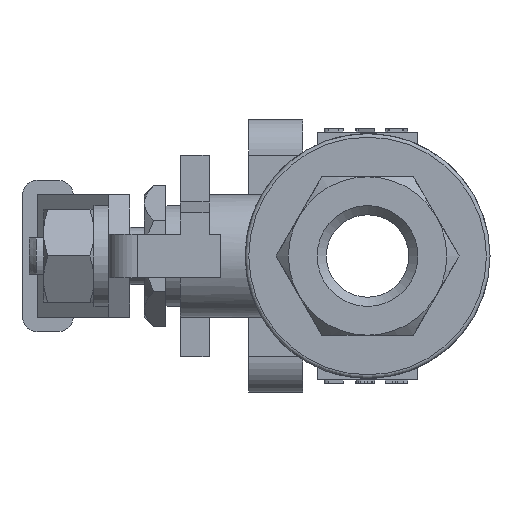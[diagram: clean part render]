
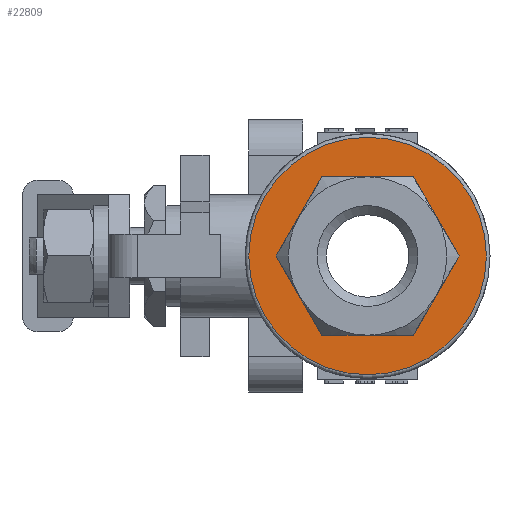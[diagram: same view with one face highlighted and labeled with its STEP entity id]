
A CAD part, left-side view. The second image highlights one B-rep face of the part: STEP entity #22809.
In plain terms, the highlighted planar face has unit normal (-1, 0, 0).
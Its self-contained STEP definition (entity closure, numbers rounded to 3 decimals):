
#296=FACE_BOUND('',#3714,.T.);
#1400=PLANE('',#24040);
#2506=FACE_OUTER_BOUND('',#3713,.T.);
#3713=EDGE_LOOP('',(#20371));
#3714=EDGE_LOOP('',(#20372,#20373,#20374,#20375,#20376,#20377));
#6366=LINE('',#36935,#9008);
#6367=LINE('',#36937,#9009);
#6368=LINE('',#36939,#9010);
#6369=LINE('',#36941,#9011);
#6370=LINE('',#36943,#9012);
#6371=LINE('',#36944,#9013);
#9008=VECTOR('',#29059,10.);
#9009=VECTOR('',#29060,10.);
#9010=VECTOR('',#29061,10.);
#9011=VECTOR('',#29062,10.);
#9012=VECTOR('',#29063,10.);
#9013=VECTOR('',#29064,10.);
#9204=CIRCLE('',#24038,16.5);
#11230=VERTEX_POINT('',#36928);
#11231=VERTEX_POINT('',#36933);
#11232=VERTEX_POINT('',#36934);
#11233=VERTEX_POINT('',#36936);
#11234=VERTEX_POINT('',#36938);
#11235=VERTEX_POINT('',#36940);
#11236=VERTEX_POINT('',#36942);
#14286=EDGE_CURVE('',#11230,#11230,#9204,.T.);
#14288=EDGE_CURVE('',#11231,#11232,#6366,.T.);
#14289=EDGE_CURVE('',#11232,#11233,#6367,.T.);
#14290=EDGE_CURVE('',#11233,#11234,#6368,.T.);
#14291=EDGE_CURVE('',#11234,#11235,#6369,.T.);
#14292=EDGE_CURVE('',#11235,#11236,#6370,.T.);
#14293=EDGE_CURVE('',#11236,#11231,#6371,.T.);
#20371=ORIENTED_EDGE('',*,*,#14286,.F.);
#20372=ORIENTED_EDGE('',*,*,#14288,.T.);
#20373=ORIENTED_EDGE('',*,*,#14289,.T.);
#20374=ORIENTED_EDGE('',*,*,#14290,.T.);
#20375=ORIENTED_EDGE('',*,*,#14291,.T.);
#20376=ORIENTED_EDGE('',*,*,#14292,.T.);
#20377=ORIENTED_EDGE('',*,*,#14293,.T.);
#22809=ADVANCED_FACE('',(#2506,#296),#1400,.T.);
#24038=AXIS2_PLACEMENT_3D('',#36930,#29053,#29054);
#24040=AXIS2_PLACEMENT_3D('',#36932,#29057,#29058);
#29053=DIRECTION('center_axis',(1.,0.,0.));
#29054=DIRECTION('ref_axis',(0.,-1.,0.));
#29057=DIRECTION('center_axis',(-1.,0.,0.));
#29058=DIRECTION('ref_axis',(0.,0.,1.));
#29059=DIRECTION('',(0.,0.5,0.866));
#29060=DIRECTION('',(0.,-0.5,0.866));
#29061=DIRECTION('',(0.,-1.,0.));
#29062=DIRECTION('',(0.,-0.5,-0.866));
#29063=DIRECTION('',(0.,0.5,-0.866));
#29064=DIRECTION('',(0.,1.,0.));
#36928=CARTESIAN_POINT('',(-40.078,-12.046,16.5));
#36930=CARTESIAN_POINT('Origin',(-40.078,-12.046,0.));
#36932=CARTESIAN_POINT('Origin',(-40.078,2.829,0.));
#36933=CARTESIAN_POINT('',(-40.078,-5.695,-11.));
#36934=CARTESIAN_POINT('',(-40.078,0.656,0.));
#36935=CARTESIAN_POINT('',(-40.078,-5.743,-11.083));
#36936=CARTESIAN_POINT('',(-40.078,-5.695,11.));
#36937=CARTESIAN_POINT('',(-40.078,0.704,-0.083));
#36938=CARTESIAN_POINT('',(-40.078,-18.397,11.));
#36939=CARTESIAN_POINT('',(-40.078,-5.599,11.));
#36940=CARTESIAN_POINT('',(-40.078,-24.748,0.));
#36941=CARTESIAN_POINT('',(-40.078,-18.349,11.083));
#36942=CARTESIAN_POINT('',(-40.078,-18.397,-11.));
#36943=CARTESIAN_POINT('',(-40.078,-24.796,0.083));
#36944=CARTESIAN_POINT('',(-40.078,-18.493,-11.));
